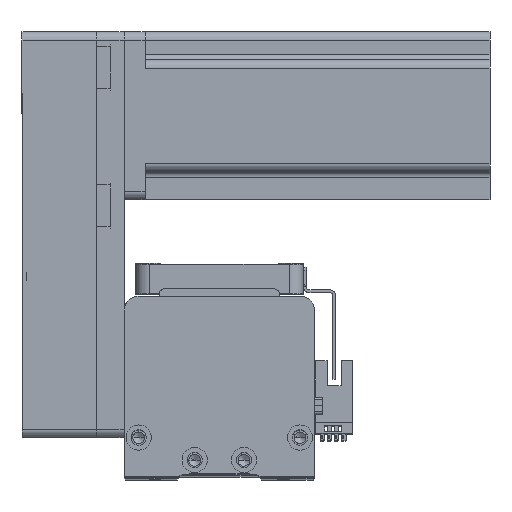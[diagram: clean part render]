
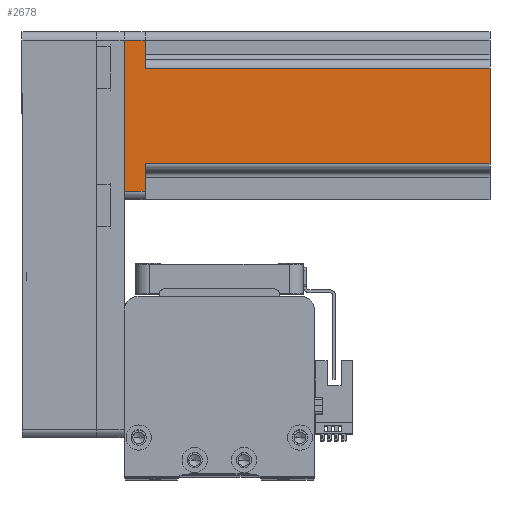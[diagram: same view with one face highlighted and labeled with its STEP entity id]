
A CAD part, top view. The second image highlights one B-rep face of the part: STEP entity #2678.
In plain terms, the highlighted planar face has unit normal (0, 0, 1) as drawn and (0, 1, 0) by its records, which use the part's own axes.
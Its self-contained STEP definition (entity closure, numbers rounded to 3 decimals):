
#1514 = DIRECTION ( 'NONE',  ( -1., 0., 0. ) ) ;
#2470 = EDGE_CURVE ( 'NONE', #7766, #7158, #10681, .T. ) ;
#2530 = CARTESIAN_POINT ( 'NONE',  ( 20., 30., 7.5 ) ) ;
#2572 = CARTESIAN_POINT ( 'NONE',  ( 27., 30., 0. ) ) ;
#2674 = CARTESIAN_POINT ( 'NONE',  ( 27., 30., 130.7 ) ) ;
#2678 = ADVANCED_FACE ( 'NONE', ( #21995 ), #33981, .F. ) ;
#3003 = CARTESIAN_POINT ( 'NONE',  ( 30., 30., 0. ) ) ;
#3639 = EDGE_LOOP ( 'NONE', ( #30173, #21507, #30135, #25944, #27013, #8043, #23226, #35066 ) ) ;
#3980 = DIRECTION ( 'NONE',  ( 0., 0., -1. ) ) ;
#5011 = VECTOR ( 'NONE', #32898, 1000. ) ;
#5218 = CARTESIAN_POINT ( 'NONE',  ( -27., 30., 130.7 ) ) ;
#5664 = VECTOR ( 'NONE', #18523, 1000. ) ;
#5987 = DIRECTION ( 'NONE',  ( 0., 0., -1. ) ) ;
#6591 = EDGE_CURVE ( 'NONE', #17482, #7158, #14143, .T. ) ;
#6790 = EDGE_CURVE ( 'NONE', #17482, #28288, #40993, .T. ) ;
#7158 = VERTEX_POINT ( 'NONE', #20145 ) ;
#7766 = VERTEX_POINT ( 'NONE', #11278 ) ;
#8043 = ORIENTED_EDGE ( 'NONE', *, *, #37025, .T. ) ;
#8415 = LINE ( 'NONE', #39240, #42547 ) ;
#10201 = VERTEX_POINT ( 'NONE', #24898 ) ;
#10681 = LINE ( 'NONE', #2530, #18397 ) ;
#11278 = CARTESIAN_POINT ( 'NONE',  ( 27., 30., 7.5 ) ) ;
#12493 = VECTOR ( 'NONE', #5987, 1000. ) ;
#14143 = LINE ( 'NONE', #23783, #39445 ) ;
#14478 = LINE ( 'NONE', #5218, #5664 ) ;
#16255 = DIRECTION ( 'NONE',  ( 1., 0., 0. ) ) ;
#17482 = VERTEX_POINT ( 'NONE', #25627 ) ;
#18397 = VECTOR ( 'NONE', #23745, 1000. ) ;
#18523 = DIRECTION ( 'NONE',  ( 0., 0., 1. ) ) ;
#19416 = CARTESIAN_POINT ( 'NONE',  ( -17., 30., 7.5 ) ) ;
#19739 = CARTESIAN_POINT ( 'NONE',  ( -20., 30., 7.5 ) ) ;
#19946 = CARTESIAN_POINT ( 'NONE',  ( -17., 30., 130.7 ) ) ;
#19949 = VERTEX_POINT ( 'NONE', #19416 ) ;
#20145 = CARTESIAN_POINT ( 'NONE',  ( 17., 30., 7.5 ) ) ;
#21507 = ORIENTED_EDGE ( 'NONE', *, *, #36468, .T. ) ;
#21564 = CARTESIAN_POINT ( 'NONE',  ( 30., 30., 130.7 ) ) ;
#21995 = FACE_OUTER_BOUND ( 'NONE', #3639, .T. ) ;
#23226 = ORIENTED_EDGE ( 'NONE', *, *, #39428, .T. ) ;
#23433 = VECTOR ( 'NONE', #1514, 1000. ) ;
#23632 = LINE ( 'NONE', #3003, #5011 ) ;
#23745 = DIRECTION ( 'NONE',  ( -1., 0., 0. ) ) ;
#23783 = CARTESIAN_POINT ( 'NONE',  ( 17., 30., 130.7 ) ) ;
#23796 = EDGE_CURVE ( 'NONE', #39574, #19949, #39473, .T. ) ;
#24898 = CARTESIAN_POINT ( 'NONE',  ( -27., 30., 0. ) ) ;
#25627 = CARTESIAN_POINT ( 'NONE',  ( 17., 30., 130.7 ) ) ;
#25944 = ORIENTED_EDGE ( 'NONE', *, *, #6591, .T. ) ;
#26100 = DIRECTION ( 'NONE',  ( 0., 0., 1. ) ) ;
#27013 = ORIENTED_EDGE ( 'NONE', *, *, #2470, .F. ) ;
#27372 = VERTEX_POINT ( 'NONE', #2572 ) ;
#27377 = CARTESIAN_POINT ( 'NONE',  ( -27., 30., 7.5 ) ) ;
#28288 = VERTEX_POINT ( 'NONE', #19946 ) ;
#29106 = DIRECTION ( 'NONE',  ( 0., -1., 0. ) ) ;
#30135 = ORIENTED_EDGE ( 'NONE', *, *, #6790, .F. ) ;
#30173 = ORIENTED_EDGE ( 'NONE', *, *, #23796, .T. ) ;
#30690 = VECTOR ( 'NONE', #16255, 1000. ) ;
#32898 = DIRECTION ( 'NONE',  ( -1., 0., 0. ) ) ;
#33981 = PLANE ( 'NONE',  #39200 ) ;
#35066 = ORIENTED_EDGE ( 'NONE', *, *, #37462, .T. ) ;
#36468 = EDGE_CURVE ( 'NONE', #19949, #28288, #8415, .T. ) ;
#37025 = EDGE_CURVE ( 'NONE', #7766, #27372, #38820, .T. ) ;
#37462 = EDGE_CURVE ( 'NONE', #10201, #39574, #14478, .T. ) ;
#37898 = CARTESIAN_POINT ( 'NONE',  ( 30., 30., 130.7 ) ) ;
#38188 = DIRECTION ( 'NONE',  ( 1., 0., 0. ) ) ;
#38820 = LINE ( 'NONE', #2674, #12493 ) ;
#39200 = AXIS2_PLACEMENT_3D ( 'NONE', #21564, #29106, #38188 ) ;
#39240 = CARTESIAN_POINT ( 'NONE',  ( -17., 30., 130.7 ) ) ;
#39428 = EDGE_CURVE ( 'NONE', #27372, #10201, #23632, .T. ) ;
#39445 = VECTOR ( 'NONE', #3980, 1000. ) ;
#39473 = LINE ( 'NONE', #19739, #30690 ) ;
#39574 = VERTEX_POINT ( 'NONE', #27377 ) ;
#40993 = LINE ( 'NONE', #37898, #23433 ) ;
#42547 = VECTOR ( 'NONE', #26100, 1000. ) ;
